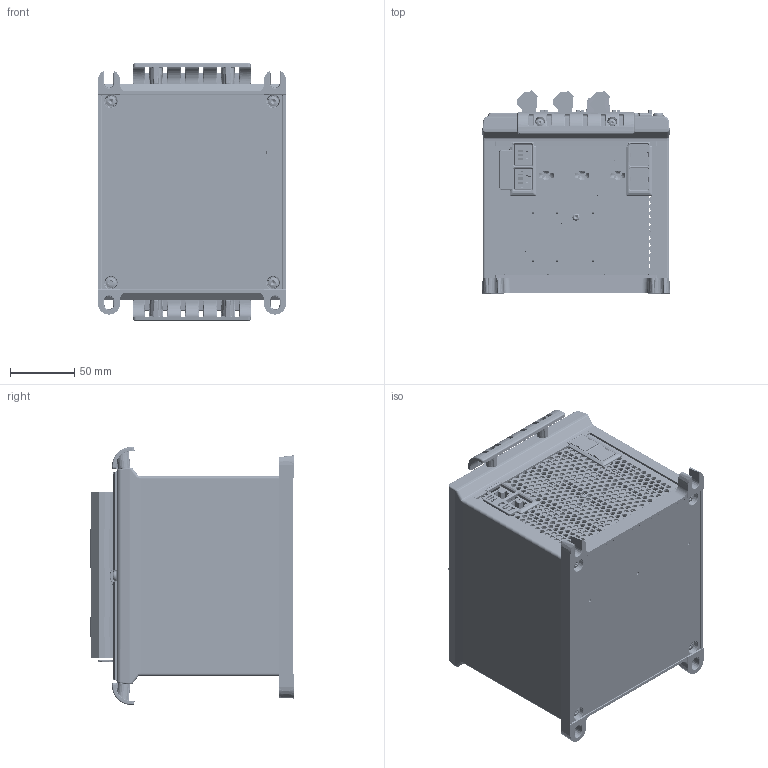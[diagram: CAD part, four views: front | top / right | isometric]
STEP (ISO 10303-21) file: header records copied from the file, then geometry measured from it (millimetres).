
FILE_DESCRIPTION(/* description */ (''),/* implementation_level */ '2;1');
FILE_NAME(/* name */ 'ML300_R4.1_PSM3.1_EIM3.1_IOM3.1_3D CAD file_20240611.stp',/* time_stamp */ '2024-06-11T15:57:16+02:00',/* author */ ('rsj'),/* organization */ (''),/* preprocessor_version */ 'ST-DEVELOPER v19.2',/* originating_system */ 'Autodesk Inventor 2023',/* authorisation */ '');
FILE_SCHEMA (('AUTOMOTIVE_DESIGN { 1 0 10303 214 3 1 1 }'));
Products named in the file (1): 1101010050 w modules_Simplify_2
Bounding box: 146.11 x 157.55 x 199.89 mm (x, y, z)
Volume: 2501756.7 mm3; surface area: 463428.1 mm2
Topology: 15 solids, 15 shells, 23361 faces, 61920 edges, 38279 vertices
Faces by surface type: plane 11345, cylinder 5367, bspline 4771, cone 831, torus 618, sphere 429
Full cylindrical faces by diameter (mm): 0.2 x2, 0.434 x2, 0.8 x21, 1.6 x38, 1.7 x11, 2.2 x4, 2.3 x4, 2.5 x15, 2.6 x4, 2.8 x11, 3 x16, 3.05 x2, 3.2 x2, 3.3 x8, 3.571 x3, 4 x53, 4.1 x4, 4.5 x4, 5.5 x6, 5.6 x8, 8 x10, 10 x1
Entity records: 917316 total; most frequent: CARTESIAN_POINT 338307, ORIENTED_EDGE 122782, DIRECTION 106288, EDGE_CURVE 61391, VERTEX_POINT 38278, LINE 38106, VECTOR 38106, AXIS2_PLACEMENT_3D 34091
